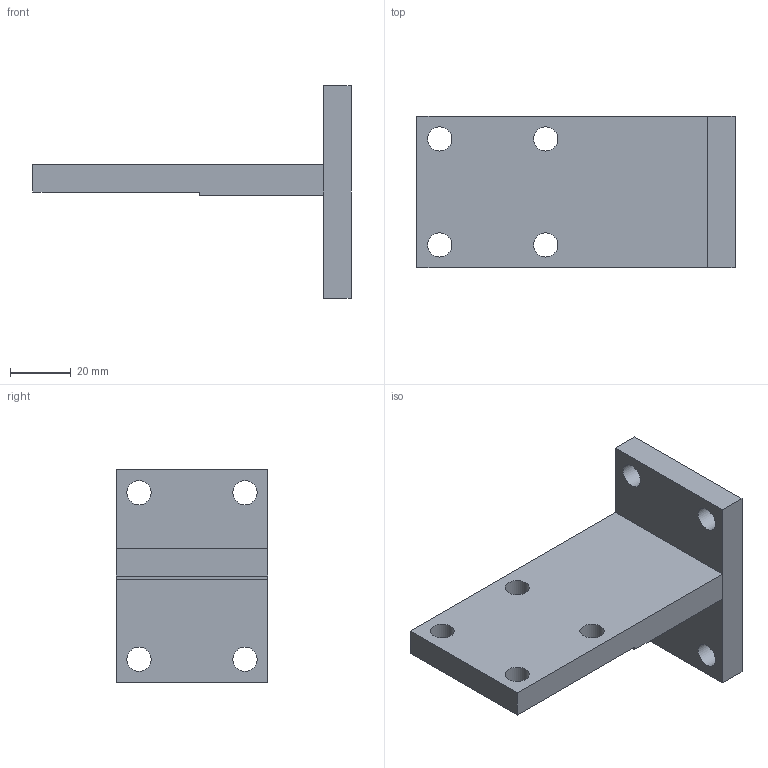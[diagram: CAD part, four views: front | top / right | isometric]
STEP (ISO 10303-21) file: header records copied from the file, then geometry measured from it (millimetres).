
FILE_DESCRIPTION(/* description */ (''),/* implementation_level */ '2;1');
FILE_NAME(/* name */ 'C:\Local Work Area\Progetti\AP\CALIBRI\03 Staffe\03.02.stp',/* time_stamp */ '2015-03-31T10:01:41+02:00',/* author */ ('CAD5'),/* organization */ (''),/* preprocessor_version */ 'ST-DEVELOPER v15.2',/* originating_system */ 'Autodesk Inventor 2014',/* authorisation */ '');
FILE_SCHEMA (('AUTOMOTIVE_DESIGN { 1 0 10303 214 3 1 1 }'));
Length unit declared in the file: millimetre
Products named in the file (3): 03.02-a; 03.02-b; 03.02
Bounding box: 105 x 50 x 70 mm (x, y, z)
Volume: 73130.9 mm3; surface area: 22575.3 mm2
Topology: 2 solids, 2 shells, 22 faces, 62 edges, 44 vertices
Faces by surface type: plane 14, cylinder 8
Full cylindrical faces by diameter (mm): 8 x8
Entity records: 711 total; most frequent: DIRECTION 116, CARTESIAN_POINT 109, ORIENTED_EDGE 92, EDGE_LOOP 46, EDGE_CURVE 46, AXIS2_PLACEMENT_3D 43, VERTEX_POINT 36, LINE 30
